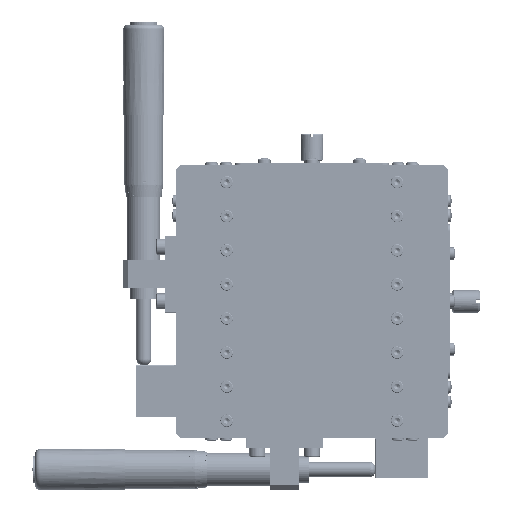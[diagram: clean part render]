
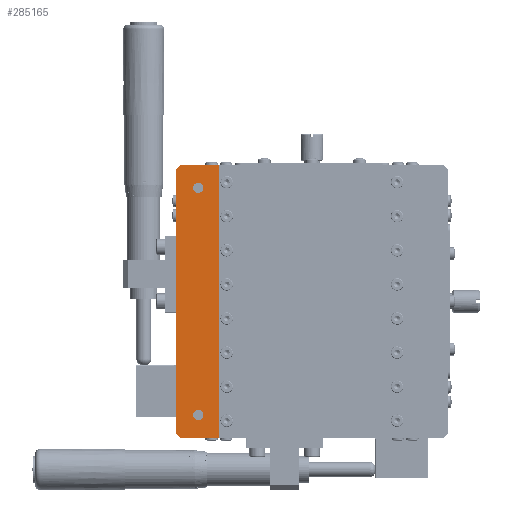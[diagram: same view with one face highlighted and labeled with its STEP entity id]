
A CAD part, front view. The second image highlights one B-rep face of the part: STEP entity #285165.
In plain terms, the highlighted planar face has unit normal (0, -1, 0).
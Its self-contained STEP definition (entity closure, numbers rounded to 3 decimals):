
#3249 = CARTESIAN_POINT ( 'NONE',  ( -60., 0., -58. ) ) ;
#3621 = VECTOR ( 'NONE', #263740, 1000. ) ;
#3648 = CARTESIAN_POINT ( 'NONE',  ( -50., 0., 52.25 ) ) ;
#16131 = VECTOR ( 'NONE', #196650, 1000. ) ;
#28859 = CARTESIAN_POINT ( 'NONE',  ( -58., 0., 60. ) ) ;
#33028 = LINE ( 'NONE', #285670, #3621 ) ;
#39685 = CARTESIAN_POINT ( 'NONE',  ( -41., 0., -60. ) ) ;
#41684 = CARTESIAN_POINT ( 'NONE',  ( -50., 0., 47.75 ) ) ;
#50670 = CARTESIAN_POINT ( 'NONE',  ( -58., 0., 60. ) ) ;
#51648 = ORIENTED_EDGE ( 'NONE', *, *, #190063, .F. ) ;
#53470 = EDGE_CURVE ( 'NONE', #198810, #235351, #33028, .T. ) ;
#69873 = EDGE_LOOP ( 'NONE', ( #309674, #228776 ) ) ;
#79222 = VECTOR ( 'NONE', #148479, 1000. ) ;
#81779 = PLANE ( 'NONE',  #221315 ) ;
#93919 = CARTESIAN_POINT ( 'NONE',  ( -60., 0., -60. ) ) ;
#105446 = DIRECTION ( 'NONE',  ( 0., 1., 0. ) ) ;
#106963 = VERTEX_POINT ( 'NONE', #41684 ) ;
#117270 = CIRCLE ( 'NONE', #122557, 2.25 ) ;
#118029 = VERTEX_POINT ( 'NONE', #194686 ) ;
#120881 = LINE ( 'NONE', #93919, #16131 ) ;
#122557 = AXIS2_PLACEMENT_3D ( 'NONE', #295957, #292597, #166350 ) ;
#125300 = AXIS2_PLACEMENT_3D ( 'NONE', #211485, #105446, #265334 ) ;
#141542 = ORIENTED_EDGE ( 'NONE', *, *, #200176, .T. ) ;
#144325 = EDGE_CURVE ( 'NONE', #208588, #106963, #303276, .T. ) ;
#148479 = DIRECTION ( 'NONE',  ( -0.707, 0., -0.707 ) ) ;
#156388 = CARTESIAN_POINT ( 'NONE',  ( -41., 0., -60. ) ) ;
#158410 = DIRECTION ( 'NONE',  ( 1., 0., 0. ) ) ;
#162049 = VERTEX_POINT ( 'NONE', #271917 ) ;
#164744 = CARTESIAN_POINT ( 'NONE',  ( -50., 0., -52.25 ) ) ;
#166350 = DIRECTION ( 'NONE',  ( 0., 0., 1. ) ) ;
#179570 = FACE_OUTER_BOUND ( 'NONE', #240799, .T. ) ;
#181625 = CARTESIAN_POINT ( 'NONE',  ( -60., 0., -58. ) ) ;
#183097 = VECTOR ( 'NONE', #292298, 1000. ) ;
#188433 = LINE ( 'NONE', #3249, #202651 ) ;
#190063 = EDGE_CURVE ( 'NONE', #241405, #118029, #208882, .T. ) ;
#193118 = EDGE_CURVE ( 'NONE', #198810, #282439, #188433, .T. ) ;
#194686 = CARTESIAN_POINT ( 'NONE',  ( -41., 0., 60. ) ) ;
#196650 = DIRECTION ( 'NONE',  ( -1., 0., 0. ) ) ;
#198810 = VERTEX_POINT ( 'NONE', #181625 ) ;
#200176 = EDGE_CURVE ( 'NONE', #294006, #118029, #263715, .T. ) ;
#201835 = ORIENTED_EDGE ( 'NONE', *, *, #312667, .T. ) ;
#202651 = VECTOR ( 'NONE', #289447, 1000. ) ;
#203168 = FACE_BOUND ( 'NONE', #207335, .T. ) ;
#204038 = CARTESIAN_POINT ( 'NONE',  ( -50., 0., -50. ) ) ;
#205575 = LINE ( 'NONE', #50670, #79222 ) ;
#207335 = EDGE_LOOP ( 'NONE', ( #201835, #208714 ) ) ;
#208588 = VERTEX_POINT ( 'NONE', #3648 ) ;
#208714 = ORIENTED_EDGE ( 'NONE', *, *, #326379, .T. ) ;
#208882 = LINE ( 'NONE', #262742, #256032 ) ;
#211485 = CARTESIAN_POINT ( 'NONE',  ( -50., 0., 50. ) ) ;
#212288 = DIRECTION ( 'NONE',  ( 0., 0., 1. ) ) ;
#217266 = EDGE_CURVE ( 'NONE', #294006, #282439, #120881, .T. ) ;
#220348 = ORIENTED_EDGE ( 'NONE', *, *, #325930, .T. ) ;
#221315 = AXIS2_PLACEMENT_3D ( 'NONE', #263646, #261951, #283920 ) ;
#222503 = AXIS2_PLACEMENT_3D ( 'NONE', #315035, #288075, #212288 ) ;
#226210 = ORIENTED_EDGE ( 'NONE', *, *, #53470, .F. ) ;
#227665 = DIRECTION ( 'NONE',  ( 0., 0., 1. ) ) ;
#228776 = ORIENTED_EDGE ( 'NONE', *, *, #315987, .T. ) ;
#230101 = FACE_BOUND ( 'NONE', #69873, .T. ) ;
#235351 = VERTEX_POINT ( 'NONE', #267936 ) ;
#240799 = EDGE_LOOP ( 'NONE', ( #226210, #278602, #253961, #141542, #51648, #220348 ) ) ;
#241405 = VERTEX_POINT ( 'NONE', #28859 ) ;
#244457 = VERTEX_POINT ( 'NONE', #164744 ) ;
#253961 = ORIENTED_EDGE ( 'NONE', *, *, #217266, .F. ) ;
#256032 = VECTOR ( 'NONE', #158410, 1000. ) ;
#261951 = DIRECTION ( 'NONE',  ( 0., 1., 0. ) ) ;
#262742 = CARTESIAN_POINT ( 'NONE',  ( -60., 0., 60. ) ) ;
#263646 = CARTESIAN_POINT ( 'NONE',  ( 0., 0., 0. ) ) ;
#263715 = LINE ( 'NONE', #39685, #183097 ) ;
#263740 = DIRECTION ( 'NONE',  ( 0., 0., 1. ) ) ;
#265334 = DIRECTION ( 'NONE',  ( 0., 0., 1. ) ) ;
#267936 = CARTESIAN_POINT ( 'NONE',  ( -60., 0., 58. ) ) ;
#271917 = CARTESIAN_POINT ( 'NONE',  ( -50., 0., -47.75 ) ) ;
#278602 = ORIENTED_EDGE ( 'NONE', *, *, #193118, .T. ) ;
#282439 = VERTEX_POINT ( 'NONE', #305688 ) ;
#283920 = DIRECTION ( 'NONE',  ( 0., 0., 1. ) ) ;
#284688 = CIRCLE ( 'NONE', #306105, 2.25 ) ;
#285165 = ADVANCED_FACE ( 'NONE', ( #203168, #230101, #179570 ), #81779, .F. ) ;
#285670 = CARTESIAN_POINT ( 'NONE',  ( -60., 0., -60. ) ) ;
#288075 = DIRECTION ( 'NONE',  ( 0., 1., 0. ) ) ;
#289447 = DIRECTION ( 'NONE',  ( 0.707, 0., -0.707 ) ) ;
#292298 = DIRECTION ( 'NONE',  ( 0., 0., 1. ) ) ;
#292597 = DIRECTION ( 'NONE',  ( 0., 1., 0. ) ) ;
#294006 = VERTEX_POINT ( 'NONE', #156388 ) ;
#295957 = CARTESIAN_POINT ( 'NONE',  ( -50., 0., -50. ) ) ;
#303276 = CIRCLE ( 'NONE', #222503, 2.25 ) ;
#305688 = CARTESIAN_POINT ( 'NONE',  ( -58., 0., -60. ) ) ;
#306105 = AXIS2_PLACEMENT_3D ( 'NONE', #204038, #306760, #227665 ) ;
#306760 = DIRECTION ( 'NONE',  ( 0., 1., 0. ) ) ;
#309674 = ORIENTED_EDGE ( 'NONE', *, *, #144325, .T. ) ;
#312667 = EDGE_CURVE ( 'NONE', #162049, #244457, #284688, .T. ) ;
#315035 = CARTESIAN_POINT ( 'NONE',  ( -50., 0., 50. ) ) ;
#315987 = EDGE_CURVE ( 'NONE', #106963, #208588, #329638, .T. ) ;
#325930 = EDGE_CURVE ( 'NONE', #241405, #235351, #205575, .T. ) ;
#326379 = EDGE_CURVE ( 'NONE', #244457, #162049, #117270, .T. ) ;
#329638 = CIRCLE ( 'NONE', #125300, 2.25 ) ;
